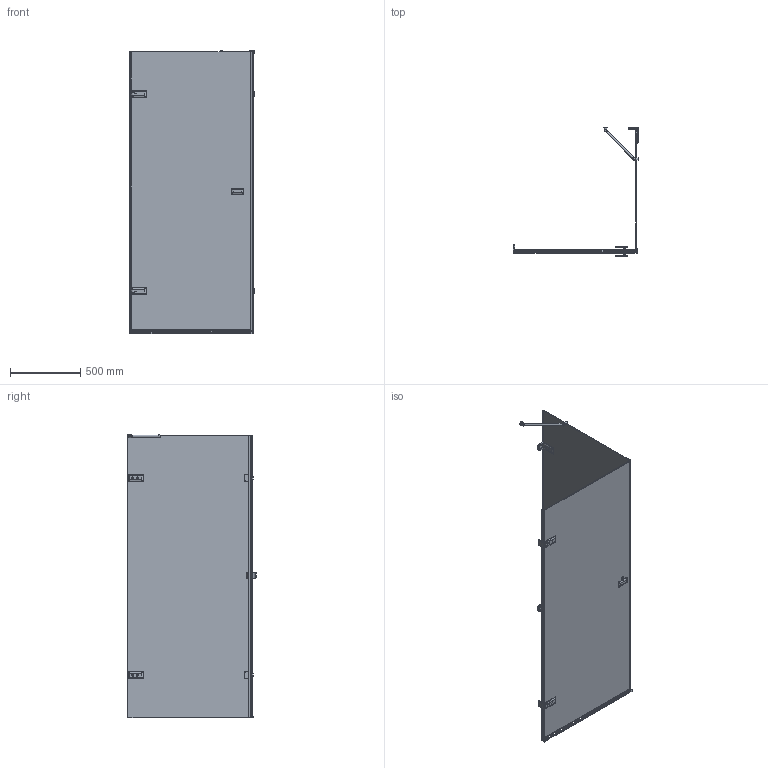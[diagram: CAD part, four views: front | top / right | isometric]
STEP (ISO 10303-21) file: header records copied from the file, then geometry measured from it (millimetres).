
FILE_DESCRIPTION(/* description */ (''),/* implementation_level */ '2;1');
FILE_NAME(/* name */ 'D:\88\Хадис\TREND SQUARE GK-862ONE\TREND SQUARE GK-862ONE левая модель\TREND SQUARE GK-862ONE ЛЕВАЯ-3D.stp',/* time_stamp */ '2020-11-13T19:34:39+03:00',/* author */ ('User'),/* organization */ (''),/* preprocessor_version */ 'ST-DEVELOPER v15.2',/* originating_system */ 'Autodesk Inventor 2014',/* authorisation */ '');
FILE_SCHEMA (('AUTOMOTIVE_DESIGN { 1 0 10303 214 3 1 1 }'));
Length unit declared in the file: millimetre
Products named in the file (1): TREND SQUARE GK-862ONE ЛЕВАЯ-3D
Bounding box: 892.5 x 912.6 x 2009.49 mm (x, y, z)
Volume: 21900990.4 mm3; surface area: 7422415.2 mm2
Topology: 5 solids, 23 shells, 1133 faces, 3021 edges, 1984 vertices
Faces by surface type: plane 654, cylinder 336, bspline 70, torus 37, cone 26, sphere 10
Full cylindrical faces by diameter (mm): 4 x2, 4.134 x2, 4.917 x4, 5 x6, 5.2 x2, 6 x2, 7.2 x4, 8 x2, 11 x2, 12 x2, 13 x6, 15 x1, 16 x6, 20 x2, 26 x1, 28 x2, 28.5 x2, 40 x2
Entity records: 38617 total; most frequent: CARTESIAN_POINT 10147, DIRECTION 5598, ORIENTED_EDGE 5544, EDGE_CURVE 2770, LINE 1882, VECTOR 1882, AXIS2_PLACEMENT_3D 1858, VERTEX_POINT 1759
